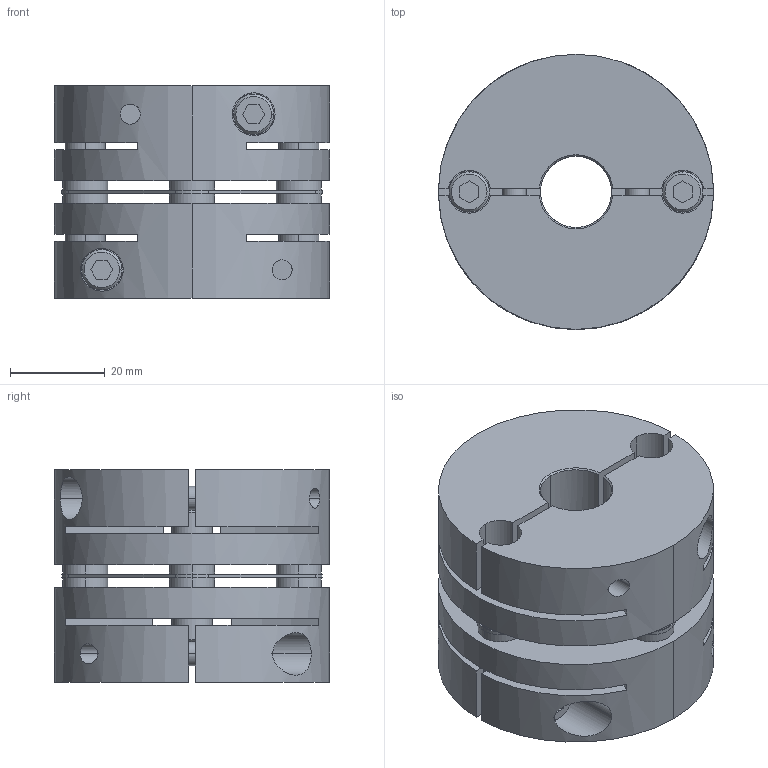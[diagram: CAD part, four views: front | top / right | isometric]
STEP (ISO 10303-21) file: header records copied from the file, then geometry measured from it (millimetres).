
FILE_DESCRIPTION((''),'2;1');
FILE_NAME('LAS-58C-15×19.stp','2011-08-09T15:25:47',(''),(''),'AutoCAD STEP 2000i','AutoCAD 2000i',', , ');
FILE_SCHEMA(('CONFIG_CONTROL_DESIGN'));
Length unit declared in the file: millimetre
Products named in the file (6): LAS-58C-12×19; 忣兜1; LA-5802-D19; LA-5802-D12-1; LA-5802-D12; LAS58-ITA
Assembly tree (5 placements, depth 2):
  LAS-58C-12×19
    忣兜1
    LA-5802-D19
    LA-5802-D12-1
    LA-5802-D12
    LAS58-ITA
Bounding box: 58 x 58 x 44.8 mm (x, y, z)
Volume: 87206.9 mm3; surface area: 33313.1 mm2
Topology: 1 solids, 1 shells, 238 faces, 618 edges, 404 vertices
Faces by surface type: plane 114, cylinder 96, cone 28
Entity records: 8213 total; most frequent: CARTESIAN_POINT 1988, DIRECTION 1316, ORIENTED_EDGE 1240, EDGE_CURVE 620, AXIS2_PLACEMENT_3D 484, VERTEX_POINT 404, VECTOR 348, LINE 348
